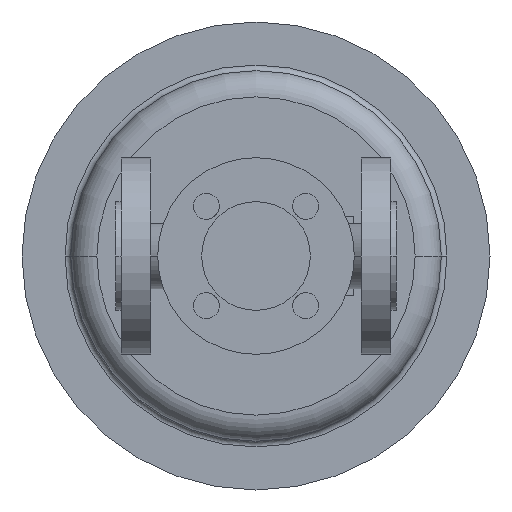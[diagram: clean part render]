
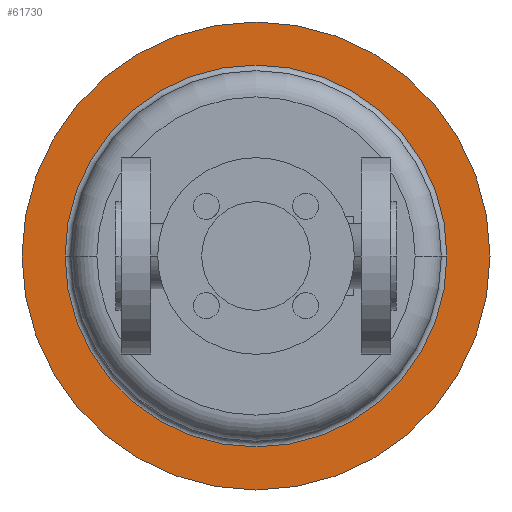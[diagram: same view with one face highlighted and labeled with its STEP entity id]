
A CAD part, front view. The second image highlights one B-rep face of the part: STEP entity #61730.
In plain terms, the highlighted planar face has unit normal (0, -1, 0).
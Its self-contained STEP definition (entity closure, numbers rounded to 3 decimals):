
#47190=CARTESIAN_POINT('',(200.,568.,0.));
#47200=VERTEX_POINT('',#47190);
#47360=CARTESIAN_POINT('',(-50.,568.,0.));
#47370=VERTEX_POINT('',#47360);
#47400=CARTESIAN_POINT('',(75.,568.,0.));
#47410=DIRECTION('',(0.,1.,0.));
#47420=DIRECTION('',(1.,0.,0.));
#47430=AXIS2_PLACEMENT_3D('',#47400,#47410,#47420);
#47440=CIRCLE('',#47430,125.);
#47450=EDGE_CURVE('',#47200,#47370,#47440,.T.);
#47550=CARTESIAN_POINT('',(75.,568.,0.));
#47560=DIRECTION('',(0.,1.,0.));
#47570=DIRECTION('',(1.,0.,0.));
#47580=AXIS2_PLACEMENT_3D('',#47550,#47560,#47570);
#47590=CIRCLE('',#47580,102.);
#47600=CARTESIAN_POINT('',(75.,568.,102.));
#47610=VERTEX_POINT('',#47600);
#47620=CARTESIAN_POINT('',(177.,568.,0.));
#47630=VERTEX_POINT('',#47620);
#47640=EDGE_CURVE('',#47610,#47630,#47590,.T.);
#47890=CARTESIAN_POINT('',(-27.,568.,0.));
#47900=VERTEX_POINT('',#47890);
#47930=EDGE_CURVE('',#47900,#47610,#47590,.T.);
#61570=CARTESIAN_POINT('',(188.5,568.,0.));
#61580=DIRECTION('',(0.,-1.,0.));
#61590=DIRECTION('',(-1.,0.,0.));
#61600=AXIS2_PLACEMENT_3D('',#61570,#61580,#61590);
#61610=PLANE('',#61600);
#61620=EDGE_CURVE('',#47370,#47200,#47440,.T.);
#61630=ORIENTED_EDGE('',*,*,#61620,.F.);
#61640=ORIENTED_EDGE('',*,*,#47450,.F.);
#61650=EDGE_LOOP('',(#61640,#61630));
#61660=FACE_OUTER_BOUND('',#61650,.T.);
#61670=EDGE_CURVE('',#47630,#47900,#47590,.T.);
#61680=ORIENTED_EDGE('',*,*,#61670,.T.);
#61690=ORIENTED_EDGE('',*,*,#47640,.T.);
#61700=ORIENTED_EDGE('',*,*,#47930,.T.);
#61710=EDGE_LOOP('',(#61700,#61690,#61680));
#61720=FACE_BOUND('',#61710,.T.);
#61730=ADVANCED_FACE('',(#61660,#61720),#61610,.T.);
